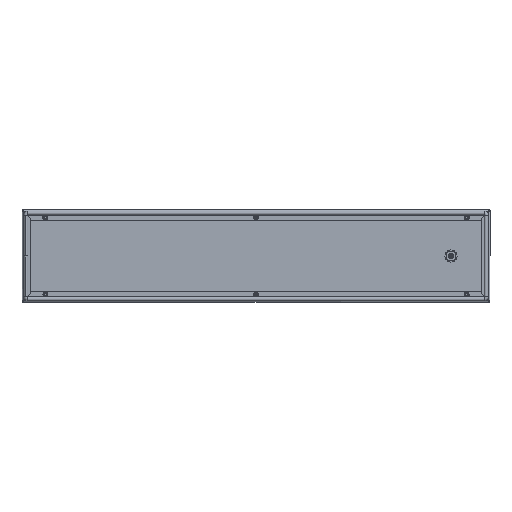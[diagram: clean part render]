
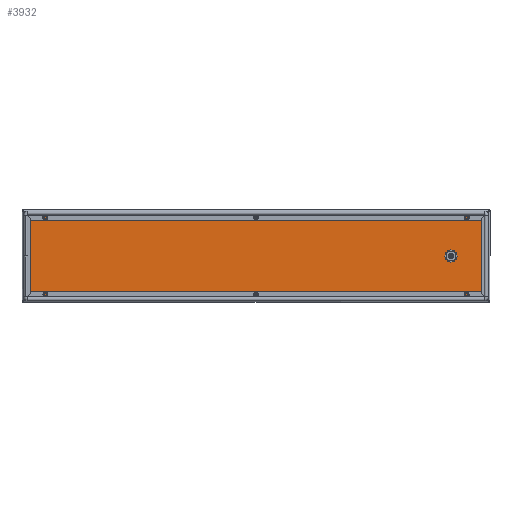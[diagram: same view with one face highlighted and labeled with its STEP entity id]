
A CAD part, top view. The second image highlights one B-rep face of the part: STEP entity #3932.
In plain terms, the highlighted planar face has unit normal (0, 0, 1).
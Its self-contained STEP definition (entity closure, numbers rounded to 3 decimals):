
#231 = CARTESIAN_POINT ( 'NONE',  ( 598.459, -115.1, 1.4 ) ) ;
#287 = CIRCLE ( 'NONE', #7137, 0.6 ) ;
#348 = VERTEX_POINT ( 'NONE', #369 ) ;
#369 = CARTESIAN_POINT ( 'NONE',  ( 596.5, 115.1, 1.4 ) ) ;
#382 = CARTESIAN_POINT ( 'NONE',  ( 597.1, 115.1, 1.4 ) ) ;
#589 = VERTEX_POINT ( 'NONE', #6441 ) ;
#977 = VERTEX_POINT ( 'NONE', #3236 ) ;
#1152 = CARTESIAN_POINT ( 'NONE',  ( -597.1, -115.1, 1.4 ) ) ;
#1215 = VERTEX_POINT ( 'NONE', #7084 ) ;
#1313 = CIRCLE ( 'NONE', #9699, 0.6 ) ;
#1370 = CARTESIAN_POINT ( 'NONE',  ( -598.459, 115.1, 1.4 ) ) ;
#1531 = VECTOR ( 'NONE', #9983, 1000. ) ;
#1742 = CARTESIAN_POINT ( 'NONE',  ( 596.5, -115.1, 1.4 ) ) ;
#1784 = LINE ( 'NONE', #10258, #4392 ) ;
#1950 = EDGE_CURVE ( 'NONE', #6351, #5767, #1784, .T. ) ;
#2008 = EDGE_LOOP ( 'NONE', ( #4559, #8124, #4047, #2054, #8256, #7003, #2239, #9574 ) ) ;
#2054 = ORIENTED_EDGE ( 'NONE', *, *, #5826, .F. ) ;
#2224 = LINE ( 'NONE', #6018, #4403 ) ;
#2234 = EDGE_CURVE ( 'NONE', #977, #1215, #11614, .T. ) ;
#2239 = ORIENTED_EDGE ( 'NONE', *, *, #1950, .F. ) ;
#2447 = DIRECTION ( 'NONE',  ( 0., 0., 1. ) ) ;
#2738 = EDGE_CURVE ( 'NONE', #348, #6351, #287, .T. ) ;
#2753 = EDGE_CURVE ( 'NONE', #12042, #589, #2224, .T. ) ;
#2878 = AXIS2_PLACEMENT_3D ( 'NONE', #1152, #4196, #11407 ) ;
#2886 = EDGE_CURVE ( 'NONE', #589, #5270, #9457, .T. ) ;
#3156 = CARTESIAN_POINT ( 'NONE',  ( 597.1, -115.1, 1.4 ) ) ;
#3159 = CARTESIAN_POINT ( 'NONE',  ( 500., 0., 1.4 ) ) ;
#3236 = CARTESIAN_POINT ( 'NONE',  ( 515.5, 0., 1.4 ) ) ;
#3433 = AXIS2_PLACEMENT_3D ( 'NONE', #5208, #7114, #3513 ) ;
#3484 = FACE_OUTER_BOUND ( 'NONE', #2008, .T. ) ;
#3513 = DIRECTION ( 'NONE',  ( 1., 0., 0. ) ) ;
#3754 = VERTEX_POINT ( 'NONE', #8663 ) ;
#3825 = AXIS2_PLACEMENT_3D ( 'NONE', #8843, #2447, #6116 ) ;
#3932 = ADVANCED_FACE ( 'NONE', ( #3484, #8965 ), #9893, .T. ) ;
#4047 = ORIENTED_EDGE ( 'NONE', *, *, #2753, .F. ) ;
#4051 = DIRECTION ( 'NONE',  ( 1., 0., 0. ) ) ;
#4081 = CARTESIAN_POINT ( 'NONE',  ( 597.1, -114.5, 1.4 ) ) ;
#4196 = DIRECTION ( 'NONE',  ( 0., 0., 1. ) ) ;
#4392 = VECTOR ( 'NONE', #5510, 1000. ) ;
#4400 = DIRECTION ( 'NONE',  ( 0., 0., 1. ) ) ;
#4403 = VECTOR ( 'NONE', #10461, 1000. ) ;
#4559 = ORIENTED_EDGE ( 'NONE', *, *, #11658, .F. ) ;
#4888 = LINE ( 'NONE', #231, #7364 ) ;
#5208 = CARTESIAN_POINT ( 'NONE',  ( -597.1, 115.1, 1.4 ) ) ;
#5270 = VERTEX_POINT ( 'NONE', #7217 ) ;
#5318 = CARTESIAN_POINT ( 'NONE',  ( 500., 0., 1.4 ) ) ;
#5510 = DIRECTION ( 'NONE',  ( 0., -1., 0. ) ) ;
#5767 = VERTEX_POINT ( 'NONE', #4081 ) ;
#5826 = EDGE_CURVE ( 'NONE', #3754, #12042, #8133, .T. ) ;
#5882 = CARTESIAN_POINT ( 'NONE',  ( -597.1, -114.5, 1.4 ) ) ;
#6018 = CARTESIAN_POINT ( 'NONE',  ( -597.1, -116.459, 1.4 ) ) ;
#6116 = DIRECTION ( 'NONE',  ( 1., 0., 0. ) ) ;
#6241 = CARTESIAN_POINT ( 'NONE',  ( 597.1, 114.5, 1.4 ) ) ;
#6351 = VERTEX_POINT ( 'NONE', #6241 ) ;
#6441 = CARTESIAN_POINT ( 'NONE',  ( -597.1, 114.5, 1.4 ) ) ;
#6603 = AXIS2_PLACEMENT_3D ( 'NONE', #5318, #4400, #9033 ) ;
#6880 = DIRECTION ( 'NONE',  ( 0., 0., 1. ) ) ;
#6885 = DIRECTION ( 'NONE',  ( 0., 0., 1. ) ) ;
#7003 = ORIENTED_EDGE ( 'NONE', *, *, #9764, .F. ) ;
#7084 = CARTESIAN_POINT ( 'NONE',  ( 484.5, 0., 1.4 ) ) ;
#7114 = DIRECTION ( 'NONE',  ( 0., 0., 1. ) ) ;
#7137 = AXIS2_PLACEMENT_3D ( 'NONE', #382, #7893, #4051 ) ;
#7217 = CARTESIAN_POINT ( 'NONE',  ( -596.5, 115.1, 1.4 ) ) ;
#7364 = VECTOR ( 'NONE', #8609, 1000. ) ;
#7449 = EDGE_CURVE ( 'NONE', #1215, #977, #10878, .T. ) ;
#7893 = DIRECTION ( 'NONE',  ( 0., 0., 1. ) ) ;
#7909 = DIRECTION ( 'NONE',  ( 1., 0., 0. ) ) ;
#7917 = EDGE_LOOP ( 'NONE', ( #10034, #8719 ) ) ;
#8124 = ORIENTED_EDGE ( 'NONE', *, *, #2886, .F. ) ;
#8133 = CIRCLE ( 'NONE', #2878, 0.6 ) ;
#8256 = ORIENTED_EDGE ( 'NONE', *, *, #9259, .F. ) ;
#8609 = DIRECTION ( 'NONE',  ( -1., 0., 0. ) ) ;
#8663 = CARTESIAN_POINT ( 'NONE',  ( -596.5, -115.1, 1.4 ) ) ;
#8719 = ORIENTED_EDGE ( 'NONE', *, *, #7449, .F. ) ;
#8843 = CARTESIAN_POINT ( 'NONE',  ( 0., 0., 1.4 ) ) ;
#8965 = FACE_BOUND ( 'NONE', #7917, .T. ) ;
#9033 = DIRECTION ( 'NONE',  ( 1., 0., 0. ) ) ;
#9259 = EDGE_CURVE ( 'NONE', #11849, #3754, #4888, .T. ) ;
#9457 = CIRCLE ( 'NONE', #3433, 0.6 ) ;
#9574 = ORIENTED_EDGE ( 'NONE', *, *, #2738, .F. ) ;
#9699 = AXIS2_PLACEMENT_3D ( 'NONE', #3156, #6880, #10588 ) ;
#9733 = LINE ( 'NONE', #1370, #1531 ) ;
#9764 = EDGE_CURVE ( 'NONE', #5767, #11849, #1313, .T. ) ;
#9893 = PLANE ( 'NONE',  #3825 ) ;
#9983 = DIRECTION ( 'NONE',  ( 1., 0., 0. ) ) ;
#10034 = ORIENTED_EDGE ( 'NONE', *, *, #2234, .F. ) ;
#10059 = AXIS2_PLACEMENT_3D ( 'NONE', #3159, #6885, #7909 ) ;
#10258 = CARTESIAN_POINT ( 'NONE',  ( 597.1, 116.459, 1.4 ) ) ;
#10461 = DIRECTION ( 'NONE',  ( 0., 1., 0. ) ) ;
#10588 = DIRECTION ( 'NONE',  ( 1., 0., 0. ) ) ;
#10878 = CIRCLE ( 'NONE', #6603, 15.5 ) ;
#11407 = DIRECTION ( 'NONE',  ( 1., 0., 0. ) ) ;
#11614 = CIRCLE ( 'NONE', #10059, 15.5 ) ;
#11658 = EDGE_CURVE ( 'NONE', #5270, #348, #9733, .T. ) ;
#11849 = VERTEX_POINT ( 'NONE', #1742 ) ;
#12042 = VERTEX_POINT ( 'NONE', #5882 ) ;
